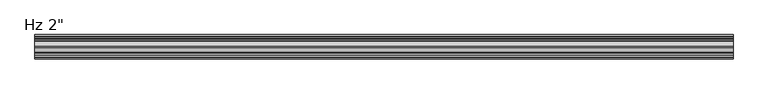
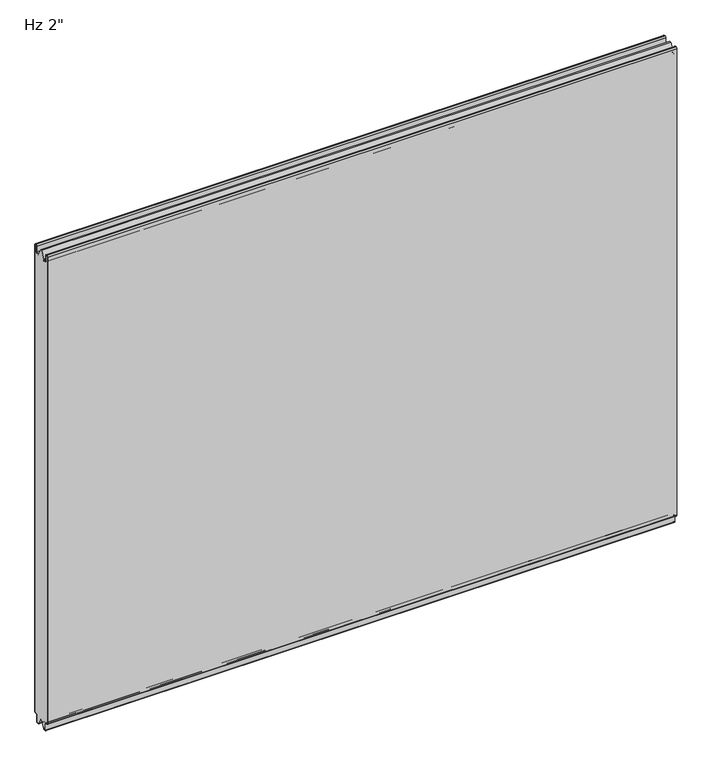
"""IFC4 building model written with IfcOpenShell, lengths in millimetres: plate geometry."""

from ifc_helpers import new_model, si_unit, frame, origin, place, context, project, spatial, polyline, circle_curve, source, transform, mapped, element, save
from ifc_brep_helpers import plane_surface, cylinder_surface, revolved_surface, advanced_brep


def plate_8ef68199(model_context):
    return source(origin(), model_context, "Body", "AdvancedBrep", [
        advanced_brep(
        [(-730.0, -2.9775467, 3.8505994), (-730.0, -5.2690127, 3.8505994), (-730.0, -9.2466047, -0.1269926), (-730.0, -9.2466047, -15.7237817), (-730.0, -9.8343998, -16.3115768), (-730.0, -12.9058755, -16.3115768), (-730.0, -13.4937293, -15.723723), (-730.0, -13.4937293, -13.3687064), (-730.0, -14.4937446, -13.3687064), (-730.0, -14.4937446, -15.6582851), (-730.0, -23.7509179, 0.0), (-730.0, -27.0490865, 0.0), (-730.0, -36.3062598, -15.6582851), (-730.0, -36.3062598, -13.3687064), (-730.0, -37.3062598, -13.3687064), (-730.0, -37.3062598, -15.723742), (-730.0, -37.8941365, -16.3116186), (-730.0, -40.9656854, -16.3116186), (-730.0, -41.5535623, -15.7237417), (-730.0, -41.5535623, -0.1273173), (-730.0, -45.5308295, 3.8499499), (-730.0, -47.8227194, 3.8499499), (-730.0, -49.7999935, 5.8272239), (-730.0, -49.8, 1150.8100652), (-730.0, -47.8227315, 1152.7873337), (-730.0, -46.7806329, 1152.7873337), (-730.0, -44.8033643, 1150.8100652), (-730.0, -44.8033643, 1136.6216802), (-730.0, -42.2154878, 1134.0338036), (-730.0, -37.8950697, 1134.0338036), (-730.0, -37.3060762, 1133.4253365), (-730.0, -37.3060762, 1131.0482432), (-730.0, -36.3066023, 1131.0482432), (-730.0, -36.3066023, 1136.4905123), (-730.0, -27.0490865, 1152.525), (-730.0, -23.7509179, 1152.525), (-730.0, -14.4934021, 1136.4905123), (-730.0, -14.4934021, 1131.0482432), (-730.0, -13.4939418, 1131.0482432), (-730.0, -13.4939418, 1133.4253475), (-730.0, -12.9049279, 1134.0338476), (-730.0, -8.5845971, 1134.0338476), (-730.0, -5.9968035, 1136.6216411), (-730.0, -5.9968035, 1150.8103903), (-730.0, -4.0192093, 1152.7879845), (-730.0, -2.9770147, 1152.7879845), (-730.0, -1.0005251, 1150.811495), (-730.0, -1.0005251, 5.7647234), (730.0, -2.9775467, 3.8505994), (730.0, -1.0005251, 5.7647234), (730.0, -1.0005251, 1150.811495), (730.0, -2.9770147, 1152.7879845), (730.0, -4.0192093, 1152.7879845), (730.0, -5.9968035, 1150.8103903), (730.0, -5.9968035, 1136.6216411), (730.0, -8.5845971, 1134.0338476), (730.0, -12.9049279, 1134.0338476), (730.0, -13.4939418, 1133.4253475), (730.0, -13.4939418, 1131.0482432), (730.0, -14.4934021, 1131.0482432), (730.0, -14.4934021, 1136.4905123), (730.0, -23.7509179, 1152.525), (730.0, -27.0490865, 1152.525), (730.0, -36.3066023, 1136.4905123), (730.0, -36.3066023, 1131.0482432), (730.0, -37.3060762, 1131.0482432), (730.0, -37.3060762, 1133.4253365), (730.0, -37.8950697, 1134.0338036), (730.0, -42.2154878, 1134.0338036), (730.0, -44.8033643, 1136.6216802), (730.0, -44.8033643, 1150.8100652), (730.0, -46.7806329, 1152.7873337), (730.0, -47.8227315, 1152.7873337), (730.0, -49.8, 1150.8100652), (730.0, -49.8, 5.8272239), (730.0, -47.8227194, 3.8499499), (730.0, -45.5308295, 3.8499499), (730.0, -41.5535623, -0.1273173), (730.0, -41.5535623, -15.7237417), (730.0, -40.9656854, -16.3116186), (730.0, -37.8941365, -16.3116186), (730.0, -37.3062598, -15.723742), (730.0, -37.3062598, -13.3687064), (730.0, -36.3062598, -13.3687064), (730.0, -36.3062598, -15.6582851), (730.0, -27.0490865, 0.0), (730.0, -23.7509179, 0.0), (730.0, -14.4937446, -15.6582851), (730.0, -14.4937446, -13.3687064), (730.0, -13.4937293, -13.3687064), (730.0, -13.4937293, -15.723723), (730.0, -12.9058755, -16.3115768), (730.0, -9.8343998, -16.3115768), (730.0, -9.2466047, -15.7237817), (730.0, -9.2466047, -0.1269926), (730.0, -5.2690127, 3.8505994)],
        [
            (0, 1),
            (1, 2, circle_curve(frame((-730.0, -5.2690127, -0.1269926), z_axis=(1.0, 0.0, 0.0), x_axis=(0.0, 1.0, 0.0)), 3.977592)),
            (2, 3),
            (3, 4, circle_curve(frame((-730.0, -9.8343998, -15.7237817), z_axis=(-1.0, 0.0, 0.0), x_axis=(0.0, 1.0, 0.0)), 0.5877951)),
            (4, 5),
            (5, 6, circle_curve(frame((-730.0, -12.9058755, -15.723723), z_axis=(-1.0, 0.0, 0.0), x_axis=(0.0, 1.0, 0.0)), 0.5878538)),
            (6, 7),
            (7, 8),
            (8, 9),
            (9, 10),
            (10, 11),
            (11, 12),
            (12, 13),
            (13, 14),
            (14, 15),
            (15, 16, circle_curve(frame((-730.0, -37.8941365, -15.723742), z_axis=(-1.0, 0.0, 0.0), x_axis=(0.0, 1.0, 0.0)), 0.5878766)),
            (16, 17),
            (17, 18, circle_curve(frame((-730.0, -40.9656854, -15.7237417), z_axis=(-1.0, 0.0, 0.0), x_axis=(0.0, 1.0, 0.0)), 0.5878769)),
            (18, 19),
            (19, 20, circle_curve(frame((-730.0, -45.5308295, -0.1273173), z_axis=(1.0, 0.0, 0.0), x_axis=(0.0, 1.0, 0.0)), 3.9772671)),
            (20, 21),
            (21, 22, circle_curve(frame((-730.0, -47.8227194, 5.8272239), z_axis=(-1.0, 0.0, 0.0), x_axis=(0.0, 1.0, 0.0)), 1.977274)),
            (22, 23),
            (23, 24, circle_curve(frame((-730.0, -47.8227315, 1150.8100652), z_axis=(-1.0, 0.0, 0.0), x_axis=(0.0, 1.0, 0.0)), 1.9772685)),
            (24, 25),
            (25, 26, circle_curve(frame((-730.0, -46.7806329, 1150.8100652), z_axis=(-1.0, 0.0, 0.0), x_axis=(0.0, 1.0, 0.0)), 1.9772685)),
            (26, 27),
            (27, 28, circle_curve(frame((-730.0, -42.2154878, 1136.6216802), z_axis=(1.0, 0.0, 0.0), x_axis=(0.0, 1.0, 0.0)), 2.5878765)),
            (28, 29),
            (29, 30, circle_curve(frame((-730.0, -37.8950697, 1133.4444985), z_axis=(-1.0, 0.0, 0.0), x_axis=(0.0, 1.0, 0.0)), 0.5893051)),
            (30, 31),
            (31, 32),
            (32, 33),
            (33, 34),
            (34, 35),
            (35, 36),
            (36, 37),
            (37, 38),
            (38, 39),
            (39, 40, circle_curve(frame((-730.0, -12.9049279, 1133.4445216), z_axis=(-1.0, 0.0, 0.0), x_axis=(0.0, 1.0, 0.0)), 0.589326)),
            (40, 41),
            (41, 42, circle_curve(frame((-730.0, -8.5845971, 1136.6216411), z_axis=(1.0, 0.0, 0.0), x_axis=(0.0, 1.0, 0.0)), 2.5877935)),
            (42, 43),
            (43, 44, circle_curve(frame((-730.0, -4.0192093, 1150.8103903), z_axis=(-1.0, 0.0, 0.0), x_axis=(0.0, 1.0, 0.0)), 1.9775943)),
            (44, 45),
            (45, 46, circle_curve(frame((-730.0, -2.9770147, 1150.811495), z_axis=(-1.0, 0.0, 0.0), x_axis=(0.0, 1.0, 0.0)), 1.9764896)),
            (46, 47),
            (47, 0, circle_curve(frame((-730.0, -2.9775467, 5.8286544), z_axis=(-1.0, 0.0, 0.0), x_axis=(0.0, 1.0, 0.0)), 1.978055)),
            (48, 49, circle_curve(frame((730.0, -2.9775467, 5.8286544), z_axis=(1.0, 0.0, 0.0), x_axis=(0.0, 1.0, 0.0)), 1.978055)),
            (49, 50),
            (50, 51, circle_curve(frame((730.0, -2.9770147, 1150.811495), z_axis=(1.0, 0.0, 0.0), x_axis=(0.0, 1.0, 0.0)), 1.9764896)),
            (51, 52),
            (52, 53, circle_curve(frame((730.0, -4.0192093, 1150.8103903), z_axis=(1.0, 0.0, 0.0), x_axis=(0.0, 1.0, 0.0)), 1.9775943)),
            (53, 54),
            (54, 55, circle_curve(frame((730.0, -8.5845971, 1136.6216411), z_axis=(-1.0, 0.0, 0.0), x_axis=(0.0, 1.0, 0.0)), 2.5877935)),
            (55, 56),
            (56, 57, circle_curve(frame((730.0, -12.9049279, 1133.4445216), z_axis=(1.0, 0.0, 0.0), x_axis=(0.0, 1.0, 0.0)), 0.589326)),
            (57, 58),
            (58, 59),
            (59, 60),
            (60, 61),
            (61, 62),
            (62, 63),
            (63, 64),
            (64, 65),
            (65, 66),
            (66, 67, circle_curve(frame((730.0, -37.8950697, 1133.4444985), z_axis=(1.0, 0.0, 0.0), x_axis=(0.0, 1.0, 0.0)), 0.5893051)),
            (67, 68),
            (68, 69, circle_curve(frame((730.0, -42.2154878, 1136.6216802), z_axis=(-1.0, 0.0, 0.0), x_axis=(0.0, 1.0, 0.0)), 2.5878765)),
            (69, 70),
            (70, 71, circle_curve(frame((730.0, -46.7806329, 1150.8100652), z_axis=(1.0, 0.0, 0.0), x_axis=(0.0, 1.0, 0.0)), 1.9772685)),
            (71, 72),
            (72, 73, circle_curve(frame((730.0, -47.8227315, 1150.8100652), z_axis=(1.0, 0.0, 0.0), x_axis=(0.0, 1.0, 0.0)), 1.9772685)),
            (73, 74),
            (74, 75, circle_curve(frame((730.0, -47.8227194, 5.8272239), z_axis=(1.0, 0.0, 0.0), x_axis=(0.0, 1.0, 0.0)), 1.977274)),
            (75, 76),
            (76, 77, circle_curve(frame((730.0, -45.5308295, -0.1273173), z_axis=(-1.0, 0.0, 0.0), x_axis=(0.0, 1.0, 0.0)), 3.9772671)),
            (77, 78),
            (78, 79, circle_curve(frame((730.0, -40.9656854, -15.7237417), z_axis=(1.0, 0.0, 0.0), x_axis=(0.0, 1.0, 0.0)), 0.5878769)),
            (79, 80),
            (80, 81, circle_curve(frame((730.0, -37.8941365, -15.723742), z_axis=(1.0, 0.0, 0.0), x_axis=(0.0, 1.0, 0.0)), 0.5878766)),
            (81, 82),
            (82, 83),
            (83, 84),
            (84, 85),
            (85, 86),
            (86, 87),
            (87, 88),
            (88, 89),
            (89, 90),
            (90, 91, circle_curve(frame((730.0, -12.9058755, -15.723723), z_axis=(1.0, 0.0, 0.0), x_axis=(0.0, 1.0, 0.0)), 0.5878538)),
            (91, 92),
            (92, 93, circle_curve(frame((730.0, -9.8343998, -15.7237817), z_axis=(1.0, 0.0, 0.0), x_axis=(0.0, 1.0, 0.0)), 0.5877951)),
            (93, 94),
            (94, 95, circle_curve(frame((730.0, -5.2690127, -0.1269926), z_axis=(-1.0, 0.0, 0.0), x_axis=(0.0, 1.0, 0.0)), 3.977592)),
            (95, 48),
            (47, 49),
            (48, 0),
            (46, 50),
            (45, 51),
            (44, 52),
            (43, 53),
            (42, 54),
            (41, 55),
            (40, 56),
            (39, 57),
            (38, 58),
            (37, 59),
            (36, 60),
            (35, 61),
            (34, 62),
            (33, 63),
            (32, 64),
            (31, 65),
            (30, 66),
            (29, 67),
            (28, 68),
            (27, 69),
            (26, 70),
            (25, 71),
            (24, 72),
            (23, 73),
            (22, 74),
            (21, 75),
            (20, 76),
            (19, 77),
            (18, 78),
            (17, 79),
            (16, 80),
            (15, 81),
            (14, 82),
            (13, 83),
            (12, 84),
            (11, 85),
            (10, 86),
            (9, 87),
            (8, 88),
            (7, 89),
            (6, 90),
            (5, 91),
            (4, 92),
            (3, 93),
            (2, 94),
            (1, 95),
        ],
        [
            plane_surface(frame((-730.0, -49.8, 576.2625), z_axis=(-1.0, 0.0, 0.0), x_axis=(0.0, -1.0, 0.0))),
            plane_surface(frame((730.0, -49.8, 576.2625), z_axis=(1.0, 0.0, 0.0), x_axis=(0.0, -1.0, 0.0))),
            cylinder_surface(frame((-730.0, -2.9775467, 5.8286544), z_axis=(-1.0, 0.0, 0.0), x_axis=(0.0, 1.0, 0.0)), 1.978055),
            plane_surface(frame((-730.0, -1.0005251, 5.7647234), z_axis=(0.0, 1.0, 0.0), x_axis=(1.0, 0.0, 0.0))),
            cylinder_surface(frame((-730.0, -2.9770147, 1150.811495), z_axis=(-1.0, 0.0, 0.0), x_axis=(0.0, 1.0, 0.0)), 1.9764896),
            plane_surface(frame((-730.0, -2.9770147, 1152.7879845), z_axis=(0.0, 0.0, 1.0), x_axis=(1.0, 0.0, 0.0))),
            cylinder_surface(frame((-730.0, -4.0192093, 1150.8103903), z_axis=(-1.0, 0.0, 0.0), x_axis=(0.0, 1.0, 0.0)), 1.9775943),
            plane_surface(frame((-730.0, -5.9968035, 1150.8103903), z_axis=(0.0, -1.0, 0.0), x_axis=(1.0, 0.0, 0.0))),
            revolved_surface(polyline([(730.0, -5.9968036, 1136.6216411), (-730.0, -5.9968036, 1136.6216411)]), (-730.0, -8.5845971, 1136.6216411), (1.0, 0.0, 0.0)),
            plane_surface(frame((-730.0, -8.5845971, 1134.0338476), z_axis=(0.0, 0.0, 1.0), x_axis=(1.0, 0.0, 0.0))),
            cylinder_surface(frame((-730.0, -12.9049279, 1133.4445216), z_axis=(-1.0, 0.0, 0.0), x_axis=(0.0, 1.0, 0.0)), 0.589326),
            plane_surface(frame((-730.0, -13.4939418, 1133.4253475), z_axis=(0.0, -1.0, 0.0), x_axis=(1.0, 0.0, 0.0))),
            plane_surface(frame((-730.0, -13.4939418, 1131.0482432), z_axis=(0.0, 0.0, 1.0), x_axis=(1.0, 0.0, 0.0))),
            plane_surface(frame((-730.0, -14.4934021, 1131.0482432), z_axis=(0.0, 1.0, 0.0), x_axis=(1.0, 0.0, 0.0))),
            plane_surface(frame((-730.0, -14.4934021, 1136.4905123), z_axis=(0.0, 0.8660254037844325, 0.5000000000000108), x_axis=(1.0, 0.0, 0.0))),
            plane_surface(frame((-730.0, -23.7509179, 1152.525), z_axis=(0.0, 0.0, 1.0), x_axis=(1.0, 0.0, 0.0))),
            plane_surface(frame((-730.0, -27.0490865, 1152.525), z_axis=(0.0, -0.8660254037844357, 0.5000000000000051), x_axis=(1.0, 0.0, 0.0))),
            plane_surface(frame((-730.0, -36.3066023, 1136.4905123), z_axis=(0.0, -1.0, 0.0), x_axis=(1.0, 0.0, 0.0))),
            plane_surface(frame((-730.0, -36.3066023, 1131.0482432), z_axis=(0.0, 0.0, 1.0), x_axis=(1.0, 0.0, 0.0))),
            plane_surface(frame((-730.0, -37.3060762, 1131.0482432), z_axis=(0.0, 1.0, 0.0), x_axis=(1.0, 0.0, 0.0))),
            cylinder_surface(frame((-730.0, -37.8950697, 1133.4444985), z_axis=(-1.0, 0.0, 0.0), x_axis=(0.0, 1.0, 0.0)), 0.5893051),
            plane_surface(frame((-730.0, -37.8950697, 1134.0338036), z_axis=(0.0, 0.0, 1.0), x_axis=(1.0, 0.0, 0.0))),
            revolved_surface(polyline([(730.0, -39.6276113, 1136.6216802), (-730.0, -39.6276113, 1136.6216802)]), (-730.0, -42.2154878, 1136.6216802), (1.0, 0.0, 0.0)),
            plane_surface(frame((-730.0, -44.8033643, 1136.6216802), z_axis=(0.0, 1.0, 0.0), x_axis=(1.0, 0.0, 0.0))),
            cylinder_surface(frame((-730.0, -46.7806329, 1150.8100652), z_axis=(-1.0, 0.0, 0.0), x_axis=(0.0, 1.0, 0.0)), 1.9772685),
            plane_surface(frame((-730.0, -46.7806329, 1152.7873337), z_axis=(0.0, 0.0, 1.0), x_axis=(1.0, 0.0, 0.0))),
            cylinder_surface(frame((-730.0, -47.8227315, 1150.8100652), z_axis=(-1.0, 0.0, 0.0), x_axis=(0.0, 1.0, 0.0)), 1.9772685),
            plane_surface(frame((-730.0, -49.8, 1150.8100652), z_axis=(0.0, -1.0, 0.0), x_axis=(1.0, 0.0, 0.0))),
            cylinder_surface(frame((-730.0, -47.8227194, 5.8272239), z_axis=(-1.0, 0.0, 0.0), x_axis=(0.0, 1.0, 0.0)), 1.977274),
            plane_surface(frame((-730.0, -47.8227194, 3.8499499), z_axis=(0.0, 0.0, -1.0), x_axis=(1.0, 0.0, 0.0))),
            revolved_surface(polyline([(730.0, -41.553562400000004, -0.1273173), (-730.0, -41.553562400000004, -0.1273173)]), (-730.0, -45.5308295, -0.1273173), (1.0, 0.0, 0.0)),
            plane_surface(frame((-730.0, -41.5535623, -0.1273173), z_axis=(0.0, -1.0, 0.0), x_axis=(1.0, 0.0, 0.0))),
            cylinder_surface(frame((-730.0, -40.9656854, -15.7237417), z_axis=(-1.0, 0.0, 0.0), x_axis=(0.0, 1.0, 0.0)), 0.5878769),
            plane_surface(frame((-730.0, -40.9656854, -16.3116186), z_axis=(0.0, 0.0, -1.0), x_axis=(1.0, 0.0, 0.0))),
            cylinder_surface(frame((-730.0, -37.8941365, -15.723742), z_axis=(-1.0, 0.0, 0.0), x_axis=(0.0, 1.0, 0.0)), 0.5878766),
            plane_surface(frame((-730.0, -37.3062598, -15.723742), z_axis=(0.0, 1.0, 0.0), x_axis=(1.0, 0.0, 0.0))),
            plane_surface(frame((-730.0, -37.3062598, -13.3687064), z_axis=(0.0, 0.0, -1.0), x_axis=(1.0, 0.0, 0.0))),
            plane_surface(frame((-730.0, -36.3062598, -13.3687064), z_axis=(0.0, -1.0, 0.0), x_axis=(1.0, 0.0, 0.0))),
            plane_surface(frame((-730.0, -36.3062598, -15.6582851), z_axis=(0.0, 0.8608169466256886, -0.5089147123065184), x_axis=(1.0, 0.0, 0.0))),
            plane_surface(frame((-730.0, -27.0490865, 0.0), z_axis=(0.0, 0.0, -1.0), x_axis=(1.0, 0.0, 0.0))),
            plane_surface(frame((-730.0, -23.7509179, 0.0), z_axis=(0.0, -0.8608169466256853, -0.5089147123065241), x_axis=(1.0, 0.0, 0.0))),
            plane_surface(frame((-730.0, -14.4937446, -15.6582851), z_axis=(0.0, 1.0, 0.0), x_axis=(1.0, 0.0, 0.0))),
            plane_surface(frame((-730.0, -14.4937446, -13.3687064), z_axis=(0.0, 0.0, -1.0), x_axis=(1.0, 0.0, 0.0))),
            plane_surface(frame((-730.0, -13.4937293, -13.3687064), z_axis=(0.0, -1.0, 0.0), x_axis=(1.0, 0.0, 0.0))),
            cylinder_surface(frame((-730.0, -12.9058755, -15.723723), z_axis=(-1.0, 0.0, 0.0), x_axis=(0.0, 1.0, 0.0)), 0.5878538),
            plane_surface(frame((-730.0, -12.9058755, -16.3115768), z_axis=(0.0, 0.0, -1.0), x_axis=(1.0, 0.0, 0.0))),
            cylinder_surface(frame((-730.0, -9.8343998, -15.7237817), z_axis=(-1.0, 0.0, 0.0), x_axis=(0.0, 1.0, 0.0)), 0.5877951),
            plane_surface(frame((-730.0, -9.2466047, -15.7237817), z_axis=(0.0, 1.0, 0.0), x_axis=(1.0, 0.0, 0.0))),
            revolved_surface(polyline([(730.0, -1.2914207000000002, -0.1269926), (-730.0, -1.2914207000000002, -0.1269926)]), (-730.0, -5.2690127, -0.1269926), (1.0, 0.0, 0.0)),
            plane_surface(frame((-730.0, -5.2690127, 3.8505994), z_axis=(0.0, 0.0, -1.0), x_axis=(1.0, 0.0, 0.0))),
        ],
        [
            (0, [[1, 2, 3, 4, 5, 6, 7, 8, 9, 10, 11, 12, 13, 14, 15, 16, 17, 18, 19, 20, 21, 22, 23, 24, 25, 26, 27, 28, 29, 30, 31, 32, 33, 34, 35, 36, 37, 38, 39, 40, 41, 42, 43, 44, 45, 46, 47, 48]]),
            (1, [[49, 50, 51, 52, 53, 54, 55, 56, 57, 58, 59, 60, 61, 62, 63, 64, 65, 66, 67, 68, 69, 70, 71, 72, 73, 74, 75, 76, 77, 78, 79, 80, 81, 82, 83, 84, 85, 86, 87, 88, 89, 90, 91, 92, 93, 94, 95, 96]]),
            (2, [[97, -49, 98, -48]]),
            (3, [[99, -50, -97, -47]]),
            (4, [[100, -51, -99, -46]]),
            (5, [[101, -52, -100, -45]]),
            (6, [[102, -53, -101, -44]]),
            (7, [[103, -54, -102, -43]]),
            (8, [[104, -55, -103, -42]]),
            (9, [[105, -56, -104, -41]]),
            (10, [[106, -57, -105, -40]]),
            (11, [[107, -58, -106, -39]]),
            (12, [[108, -59, -107, -38]]),
            (13, [[109, -60, -108, -37]]),
            (14, [[110, -61, -109, -36]]),
            (15, [[111, -62, -110, -35]]),
            (16, [[112, -63, -111, -34]]),
            (17, [[113, -64, -112, -33]]),
            (18, [[114, -65, -113, -32]]),
            (19, [[115, -66, -114, -31]]),
            (20, [[116, -67, -115, -30]]),
            (21, [[117, -68, -116, -29]]),
            (22, [[118, -69, -117, -28]]),
            (23, [[119, -70, -118, -27]]),
            (24, [[120, -71, -119, -26]]),
            (25, [[121, -72, -120, -25]]),
            (26, [[122, -73, -121, -24]]),
            (27, [[123, -74, -122, -23]]),
            (28, [[124, -75, -123, -22]]),
            (29, [[125, -76, -124, -21]]),
            (30, [[126, -77, -125, -20]]),
            (31, [[127, -78, -126, -19]]),
            (32, [[128, -79, -127, -18]]),
            (33, [[129, -80, -128, -17]]),
            (34, [[130, -81, -129, -16]]),
            (35, [[131, -82, -130, -15]]),
            (36, [[132, -83, -131, -14]]),
            (37, [[133, -84, -132, -13]]),
            (38, [[134, -85, -133, -12]]),
            (39, [[135, -86, -134, -11]]),
            (40, [[136, -87, -135, -10]]),
            (41, [[137, -88, -136, -9]]),
            (42, [[138, -89, -137, -8]]),
            (43, [[139, -90, -138, -7]]),
            (44, [[140, -91, -139, -6]]),
            (45, [[141, -92, -140, -5]]),
            (46, [[142, -93, -141, -4]]),
            (47, [[143, -94, -142, -3]]),
            (48, [[144, -95, -143, -2]]),
            (49, [[-98, -96, -144, -1]]),
        ],
    ),
        advanced_brep(
        [(-730.0, -2.9776189, 3.8501063), (-730.0, -1.0007088, 5.8270163), (-730.0, -1.0007088, 1150.812837), (-730.0, -2.97659, 1152.7887182), (-730.0, -4.019022, 1152.7887182), (-730.0, -5.9969834, 1150.8107568), (-730.0, -5.9969834, 1136.6215971), (-730.0, -8.5846834, 1134.0338971), (-730.0, -12.9049158, 1134.0338971), (-730.0, -13.4939528, 1133.4253599), (-730.0, -13.4939528, 1131.0482432), (-730.0, -14.4933977, 1131.0482432), (-730.0, -14.4933977, 1133.3929042), (-730.0, -12.9049303, 1135.0338036), (-730.0, -8.5845122, 1135.0338036), (-730.0, -6.9966356, 1136.6216801), (-730.0, -6.9966356, 1150.8100652), (-730.0, -4.0193671, 1153.7873337), (-730.0, -2.9772685, 1153.7873337), (-730.0, 0.0, 1150.8100652), (-730.0, 0.0, 5.8272211), (-730.0, -2.977286, 2.8499526), (-730.0, -5.2691698, 2.8499526), (-730.0, -8.2464384, -0.1273159), (-730.0, -8.2464384, -15.7237419), (-730.0, -9.8343149, -17.3116185), (-730.0, -12.9058636, -17.3116185), (-730.0, -14.4937401, -15.7237419), (-730.0, -14.4937401, -13.3687064), (-730.0, -13.4937365, -13.3687064), (-730.0, -13.4937365, -15.7237374), (-730.0, -12.9058654, -16.3116086), (-730.0, -9.834334, -16.3116086), (-730.0, -9.2464768, -15.7237514), (-730.0, -9.2464768, -0.1272391), (-730.0, -5.2691315, 3.8501063), (730.0, -2.9776189, 3.8501063), (730.0, -5.2691315, 3.8501063), (730.0, -9.2464768, -0.1272391), (730.0, -9.2464768, -15.7237514), (730.0, -9.834334, -16.3116086), (730.0, -12.9058654, -16.3116086), (730.0, -13.4937365, -15.7237374), (730.0, -13.4937365, -13.3687064), (730.0, -14.4937401, -13.3687064), (730.0, -14.4937401, -15.7237419), (730.0, -12.9058636, -17.3116185), (730.0, -9.8343149, -17.3116185), (730.0, -8.2464384, -15.7237419), (730.0, -8.2464384, -0.1273159), (730.0, -5.2691698, 2.8499526), (730.0, -2.977286, 2.8499526), (730.0, -1.75e-05, 5.8272211), (730.0, 0.0, 1150.8100652), (730.0, -2.9772685, 1153.7873337), (730.0, -4.0193671, 1153.7873337), (730.0, -6.9966356, 1150.8100652), (730.0, -6.9966356, 1136.6216801), (730.0, -8.5845122, 1135.0338036), (730.0, -12.9049303, 1135.0338036), (730.0, -14.4933977, 1133.3929042), (730.0, -14.4933977, 1131.0482432), (730.0, -13.4939528, 1131.0482432), (730.0, -13.4939528, 1133.4253599), (730.0, -12.9049158, 1134.0338971), (730.0, -8.5846834, 1134.0338971), (730.0, -5.9969834, 1136.6215971), (730.0, -5.9969834, 1150.8107568), (730.0, -4.019022, 1152.7887182), (730.0, -2.97659, 1152.7887182), (730.0, -1.0007088, 1150.812837), (730.0, -1.0007088, 5.8270163)],
        [
            (0, 1, circle_curve(frame((-730.0, -2.9776189, 5.8270163), z_axis=(1.0, 0.0, 0.0), x_axis=(0.0, 1.0, 0.0)), 1.9769101)),
            (1, 2),
            (2, 3, circle_curve(frame((-730.0, -2.97659, 1150.812837), z_axis=(1.0, 0.0, 0.0), x_axis=(0.0, 1.0, 0.0)), 1.9758812)),
            (3, 4),
            (4, 5, circle_curve(frame((-730.0, -4.019022, 1150.8107568), z_axis=(1.0, 0.0, 0.0), x_axis=(0.0, 1.0, 0.0)), 1.9779614)),
            (5, 6),
            (6, 7, circle_curve(frame((-730.0, -8.5846834, 1136.6215971), z_axis=(-1.0, 0.0, 0.0), x_axis=(0.0, 1.0, 0.0)), 2.5877)),
            (7, 8),
            (8, 9, circle_curve(frame((-730.0, -12.9049158, 1133.4445477), z_axis=(1.0, 0.0, 0.0), x_axis=(0.0, 1.0, 0.0)), 0.5893495)),
            (9, 10),
            (10, 11),
            (11, 12),
            (12, 13, circle_curve(frame((-730.0, -12.9049303, 1133.4444985), z_axis=(-1.0, 0.0, 0.0), x_axis=(0.0, 1.0, 0.0)), 1.5893051)),
            (13, 14),
            (14, 15, circle_curve(frame((-730.0, -8.5845122, 1136.6216801), z_axis=(1.0, 0.0, 0.0), x_axis=(0.0, 1.0, 0.0)), 1.5878765)),
            (15, 16),
            (16, 17, circle_curve(frame((-730.0, -4.0193671, 1150.8100652), z_axis=(-1.0, 0.0, 0.0), x_axis=(0.0, 1.0, 0.0)), 2.9772685)),
            (17, 18),
            (18, 19, circle_curve(frame((-730.0, -2.9772685, 1150.8100652), z_axis=(-1.0, 0.0, 0.0), x_axis=(0.0, 1.0, 0.0)), 2.9772685)),
            (19, 20),
            (20, 21, circle_curve(frame((-730.0, -2.977286, 5.8272211), z_axis=(-1.0, 0.0, 0.0), x_axis=(0.0, 1.0, 0.0)), 2.9772685)),
            (21, 22),
            (22, 23, circle_curve(frame((-730.0, -5.2691698, -0.1273159), z_axis=(1.0, 0.0, 0.0), x_axis=(0.0, 1.0, 0.0)), 2.9772685)),
            (23, 24),
            (24, 25, circle_curve(frame((-730.0, -9.8343149, -15.7237419), z_axis=(-1.0, 0.0, 0.0), x_axis=(0.0, 1.0, 0.0)), 1.5878765)),
            (25, 26),
            (26, 27, circle_curve(frame((-730.0, -12.9058636, -15.7237419), z_axis=(-1.0, 0.0, 0.0), x_axis=(0.0, 1.0, 0.0)), 1.5878765)),
            (27, 28),
            (28, 29),
            (29, 30),
            (30, 31, circle_curve(frame((-730.0, -12.9058654, -15.7237374), z_axis=(1.0, 0.0, 0.0), x_axis=(0.0, 1.0, 0.0)), 0.5878711)),
            (31, 32),
            (32, 33, circle_curve(frame((-730.0, -9.834334, -15.7237514), z_axis=(1.0, 0.0, 0.0), x_axis=(0.0, 1.0, 0.0)), 0.5878572)),
            (33, 34),
            (34, 35, circle_curve(frame((-730.0, -5.2691315, -0.1272391), z_axis=(-1.0, 0.0, 0.0), x_axis=(0.0, 1.0, 0.0)), 3.9773454)),
            (35, 0),
            (36, 37),
            (37, 38, circle_curve(frame((730.0, -5.2691315, -0.1272391), z_axis=(1.0, 0.0, 0.0), x_axis=(0.0, 1.0, 0.0)), 3.9773454)),
            (38, 39),
            (39, 40, circle_curve(frame((730.0, -9.834334, -15.7237514), z_axis=(-1.0, 0.0, 0.0), x_axis=(0.0, 1.0, 0.0)), 0.5878572)),
            (40, 41),
            (41, 42, circle_curve(frame((730.0, -12.9058654, -15.7237374), z_axis=(-1.0, 0.0, 0.0), x_axis=(0.0, 1.0, 0.0)), 0.5878711)),
            (42, 43),
            (43, 44),
            (44, 45),
            (45, 46, circle_curve(frame((730.0, -12.9058636, -15.7237419), z_axis=(1.0, 0.0, 0.0), x_axis=(0.0, 1.0, 0.0)), 1.5878765)),
            (46, 47),
            (47, 48, circle_curve(frame((730.0, -9.8343149, -15.7237419), z_axis=(1.0, 0.0, 0.0), x_axis=(0.0, 1.0, 0.0)), 1.5878765)),
            (48, 49),
            (49, 50, circle_curve(frame((730.0, -5.2691698, -0.1273159), z_axis=(-1.0, 0.0, 0.0), x_axis=(0.0, 1.0, 0.0)), 2.9772685)),
            (50, 51),
            (51, 52, circle_curve(frame((730.0, -2.977286, 5.8272211), z_axis=(1.0, 0.0, 0.0), x_axis=(0.0, 1.0, 0.0)), 2.9772685)),
            (52, 53),
            (53, 54, circle_curve(frame((730.0, -2.9772685, 1150.8100652), z_axis=(1.0, 0.0, 0.0), x_axis=(0.0, 1.0, 0.0)), 2.9772685)),
            (54, 55),
            (55, 56, circle_curve(frame((730.0, -4.0193671, 1150.8100652), z_axis=(1.0, 0.0, 0.0), x_axis=(0.0, 1.0, 0.0)), 2.9772685)),
            (56, 57),
            (57, 58, circle_curve(frame((730.0, -8.5845122, 1136.6216801), z_axis=(-1.0, 0.0, 0.0), x_axis=(0.0, 1.0, 0.0)), 1.5878765)),
            (58, 59),
            (59, 60, circle_curve(frame((730.0, -12.9049303, 1133.4444985), z_axis=(1.0, 0.0, 0.0), x_axis=(0.0, 1.0, 0.0)), 1.5893051)),
            (60, 61),
            (61, 62),
            (62, 63),
            (63, 64, circle_curve(frame((730.0, -12.9049158, 1133.4445477), z_axis=(-1.0, 0.0, 0.0), x_axis=(0.0, 1.0, 0.0)), 0.5893495)),
            (64, 65),
            (65, 66, circle_curve(frame((730.0, -8.5846834, 1136.6215971), z_axis=(1.0, 0.0, 0.0), x_axis=(0.0, 1.0, 0.0)), 2.5877)),
            (66, 67),
            (67, 68, circle_curve(frame((730.0, -4.019022, 1150.8107568), z_axis=(-1.0, 0.0, 0.0), x_axis=(0.0, 1.0, 0.0)), 1.9779614)),
            (68, 69),
            (69, 70, circle_curve(frame((730.0, -2.97659, 1150.812837), z_axis=(-1.0, 0.0, 0.0), x_axis=(0.0, 1.0, 0.0)), 1.9758812)),
            (70, 71),
            (71, 36, circle_curve(frame((730.0, -2.9776189, 5.8270163), z_axis=(-1.0, 0.0, 0.0), x_axis=(0.0, 1.0, 0.0)), 1.9769101)),
            (35, 37),
            (36, 0),
            (34, 38),
            (33, 39),
            (32, 40),
            (31, 41),
            (30, 42),
            (29, 43),
            (28, 44),
            (27, 45),
            (26, 46),
            (25, 47),
            (24, 48),
            (23, 49),
            (22, 50),
            (21, 51),
            (20, 52),
            (19, 53),
            (18, 54),
            (17, 55),
            (16, 56),
            (15, 57),
            (14, 58),
            (13, 59),
            (12, 60),
            (11, 61),
            (10, 62),
            (9, 63),
            (8, 64),
            (7, 65),
            (6, 66),
            (5, 67),
            (4, 68),
            (3, 69),
            (2, 70),
            (1, 71),
        ],
        [
            plane_surface(frame((-730.0, 0.0, 576.2625), z_axis=(-1.0, 0.0, 0.0), x_axis=(0.0, 1.0, 0.0))),
            plane_surface(frame((730.0, 0.0, 576.2625), z_axis=(1.0, 0.0, 0.0), x_axis=(0.0, 1.0, 0.0))),
            plane_surface(frame((-730.0, -2.9776189, 3.8501063), z_axis=(0.0, 0.0, 1.0), x_axis=(1.0, 0.0, 0.0))),
            cylinder_surface(frame((-730.0, -5.2691315, -0.1272391), z_axis=(-1.0, 0.0, 0.0), x_axis=(0.0, 1.0, 0.0)), 3.9773454),
            plane_surface(frame((-730.0, -9.2464768, -0.1272391), z_axis=(0.0, -1.0, 0.0), x_axis=(1.0, 0.0, 0.0))),
            revolved_surface(polyline([(730.0, -9.2464768, -15.7237514), (-730.0, -9.2464768, -15.7237514)]), (-730.0, -9.834334, -15.7237514), (1.0, 0.0, 0.0)),
            plane_surface(frame((-730.0, -9.834334, -16.3116086), z_axis=(0.0, 0.0, 1.0), x_axis=(1.0, 0.0, 0.0))),
            revolved_surface(polyline([(730.0, -12.3179943, -15.7237374), (-730.0, -12.3179943, -15.7237374)]), (-730.0, -12.9058654, -15.7237374), (1.0, 0.0, 0.0)),
            plane_surface(frame((-730.0, -13.4937365, -15.7237374), z_axis=(0.0, 1.0, 0.0), x_axis=(1.0, 0.0, 0.0))),
            plane_surface(frame((-730.0, -13.4937365, -13.3687064), z_axis=(0.0, 0.0, 1.0), x_axis=(1.0, 0.0, 0.0))),
            plane_surface(frame((-730.0, -14.4937401, -13.3687064), z_axis=(0.0, -1.0, 0.0), x_axis=(1.0, 0.0, 0.0))),
            cylinder_surface(frame((-730.0, -12.9058636, -15.7237419), z_axis=(-1.0, 0.0, 0.0), x_axis=(0.0, 1.0, 0.0)), 1.5878765),
            plane_surface(frame((-730.0, -12.9058636, -17.3116185), z_axis=(0.0, 0.0, -1.0), x_axis=(1.0, 0.0, 0.0))),
            cylinder_surface(frame((-730.0, -9.8343149, -15.7237419), z_axis=(-1.0, 0.0, 0.0), x_axis=(0.0, 1.0, 0.0)), 1.5878765),
            plane_surface(frame((-730.0, -8.2464384, -15.7237419), z_axis=(0.0, 1.0, 0.0), x_axis=(1.0, 0.0, 0.0))),
            revolved_surface(polyline([(730.0, -2.2919013, -0.1273159), (-730.0, -2.2919013, -0.1273159)]), (-730.0, -5.2691698, -0.1273159), (1.0, 0.0, 0.0)),
            plane_surface(frame((-730.0, -5.2691698, 2.8499526), z_axis=(0.0, 0.0, -1.0), x_axis=(1.0, 0.0, 0.0))),
            cylinder_surface(frame((-730.0, -2.977286, 5.8272211), z_axis=(-1.0, 0.0, 0.0), x_axis=(0.0, 1.0, 0.0)), 2.9772685),
            plane_surface(frame((-730.0, 0.0, 5.8272211), z_axis=(0.0, 1.0, 0.0), x_axis=(1.0, 0.0, 0.0))),
            cylinder_surface(frame((-730.0, -2.9772685, 1150.8100652), z_axis=(-1.0, 0.0, 0.0), x_axis=(0.0, 1.0, 0.0)), 2.9772685),
            plane_surface(frame((-730.0, -2.9772685, 1153.7873337), z_axis=(0.0, 0.0, 1.0), x_axis=(1.0, 0.0, 0.0))),
            cylinder_surface(frame((-730.0, -4.0193671, 1150.8100652), z_axis=(-1.0, 0.0, 0.0), x_axis=(0.0, 1.0, 0.0)), 2.9772685),
            plane_surface(frame((-730.0, -6.9966356, 1150.8100652), z_axis=(0.0, -1.0, 0.0), x_axis=(1.0, 0.0, 0.0))),
            revolved_surface(polyline([(730.0, -6.996635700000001, 1136.6216801), (-730.0, -6.996635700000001, 1136.6216801)]), (-730.0, -8.5845122, 1136.6216801), (1.0, 0.0, 0.0)),
            plane_surface(frame((-730.0, -8.5845122, 1135.0338036), z_axis=(0.0, 0.0, 1.0), x_axis=(1.0, 0.0, 0.0))),
            cylinder_surface(frame((-730.0, -12.9049303, 1133.4444985), z_axis=(-1.0, 0.0, 0.0), x_axis=(0.0, 1.0, 0.0)), 1.5893051),
            plane_surface(frame((-730.0, -14.4933977, 1133.3929042), z_axis=(0.0, -1.0, 0.0), x_axis=(1.0, 0.0, 0.0))),
            plane_surface(frame((-730.0, -14.4933977, 1131.0482432), z_axis=(0.0, 0.0, -1.0), x_axis=(1.0, 0.0, 0.0))),
            plane_surface(frame((-730.0, -13.4939528, 1131.0482432), z_axis=(0.0, 1.0, 0.0), x_axis=(1.0, 0.0, 0.0))),
            revolved_surface(polyline([(730.0, -12.3155663, 1133.4445477), (-730.0, -12.3155663, 1133.4445477)]), (-730.0, -12.9049158, 1133.4445477), (1.0, 0.0, 0.0)),
            plane_surface(frame((-730.0, -12.9049158, 1134.0338971), z_axis=(0.0, 0.0, -1.0), x_axis=(1.0, 0.0, 0.0))),
            cylinder_surface(frame((-730.0, -8.5846834, 1136.6215971), z_axis=(-1.0, 0.0, 0.0), x_axis=(0.0, 1.0, 0.0)), 2.5877),
            plane_surface(frame((-730.0, -5.9969834, 1136.6215971), z_axis=(0.0, 1.0, 0.0), x_axis=(1.0, 0.0, 0.0))),
            revolved_surface(polyline([(730.0, -2.0410606, 1150.8107568), (-730.0, -2.0410606, 1150.8107568)]), (-730.0, -4.019022, 1150.8107568), (1.0, 0.0, 0.0)),
            plane_surface(frame((-730.0, -4.019022, 1152.7887182), z_axis=(0.0, 0.0, -1.0), x_axis=(1.0, 0.0, 0.0))),
            revolved_surface(polyline([(730.0, -1.0007088, 1150.812837), (-730.0, -1.0007088, 1150.812837)]), (-730.0, -2.97659, 1150.812837), (1.0, 0.0, 0.0)),
            plane_surface(frame((-730.0, -1.0007088, 1150.812837), z_axis=(0.0, -1.0, 0.0), x_axis=(1.0, 0.0, 0.0))),
            revolved_surface(polyline([(730.0, -1.0007088, 5.8270163), (-730.0, -1.0007088, 5.8270163)]), (-730.0, -2.9776189, 5.8270163), (1.0, 0.0, 0.0)),
        ],
        [
            (0, [[1, 2, 3, 4, 5, 6, 7, 8, 9, 10, 11, 12, 13, 14, 15, 16, 17, 18, 19, 20, 21, 22, 23, 24, 25, 26, 27, 28, 29, 30, 31, 32, 33, 34, 35, 36]]),
            (1, [[37, 38, 39, 40, 41, 42, 43, 44, 45, 46, 47, 48, 49, 50, 51, 52, 53, 54, 55, 56, 57, 58, 59, 60, 61, 62, 63, 64, 65, 66, 67, 68, 69, 70, 71, 72]]),
            (2, [[73, -37, 74, -36]]),
            (3, [[75, -38, -73, -35]]),
            (4, [[76, -39, -75, -34]]),
            (5, [[77, -40, -76, -33]]),
            (6, [[78, -41, -77, -32]]),
            (7, [[79, -42, -78, -31]]),
            (8, [[80, -43, -79, -30]]),
            (9, [[81, -44, -80, -29]]),
            (10, [[82, -45, -81, -28]]),
            (11, [[83, -46, -82, -27]]),
            (12, [[84, -47, -83, -26]]),
            (13, [[85, -48, -84, -25]]),
            (14, [[86, -49, -85, -24]]),
            (15, [[87, -50, -86, -23]]),
            (16, [[88, -51, -87, -22]]),
            (17, [[89, -52, -88, -21]]),
            (18, [[90, -53, -89, -20]]),
            (19, [[91, -54, -90, -19]]),
            (20, [[92, -55, -91, -18]]),
            (21, [[93, -56, -92, -17]]),
            (22, [[94, -57, -93, -16]]),
            (23, [[95, -58, -94, -15]]),
            (24, [[96, -59, -95, -14]]),
            (25, [[97, -60, -96, -13]]),
            (26, [[98, -61, -97, -12]]),
            (27, [[99, -62, -98, -11]]),
            (28, [[100, -63, -99, -10]]),
            (29, [[101, -64, -100, -9]]),
            (30, [[102, -65, -101, -8]]),
            (31, [[103, -66, -102, -7]]),
            (32, [[104, -67, -103, -6]]),
            (33, [[105, -68, -104, -5]]),
            (34, [[106, -69, -105, -4]]),
            (35, [[107, -70, -106, -3]]),
            (36, [[108, -71, -107, -2]]),
            (37, [[-74, -72, -108, -1]]),
        ],
    ),
        advanced_brep(
        [(-730.0, -47.8223811, 3.8501063), (-730.0, -45.5308685, 3.8501063), (-730.0, -41.5535232, -0.1272391), (-730.0, -41.5535232, -15.7237514), (-730.0, -40.965666, -16.3116086), (-730.0, -37.8941346, -16.3116086), (-730.0, -37.3062635, -15.7237374), (-730.0, -37.3062635, -13.3687064), (-730.0, -36.3062599, -13.3687064), (-730.0, -36.3062599, -15.7237419), (-730.0, -37.8941364, -17.3116185), (-730.0, -40.9656851, -17.3116185), (-730.0, -42.5535616, -15.7237419), (-730.0, -42.5535616, -0.1273159), (-730.0, -45.5308302, 2.8499526), (-730.0, -47.822714, 2.8499526), (-730.0, -50.7999825, 5.8272211), (-730.0, -50.8, 1150.8100652), (-730.0, -47.8227315, 1153.7873337), (-730.0, -46.7806329, 1153.7873337), (-730.0, -43.8033644, 1150.8100652), (-730.0, -43.8033644, 1136.6216801), (-730.0, -42.2154878, 1135.0338036), (-730.0, -37.8950697, 1135.0338036), (-730.0, -36.3066023, 1133.3929042), (-730.0, -36.3066023, 1131.0482432), (-730.0, -37.3060472, 1131.0482432), (-730.0, -37.3060472, 1133.4253599), (-730.0, -37.8950842, 1134.0338971), (-730.0, -42.2153166, 1134.0338971), (-730.0, -44.8030166, 1136.6215971), (-730.0, -44.8030166, 1150.8107568), (-730.0, -46.780978, 1152.7887182), (-730.0, -47.82341, 1152.7887182), (-730.0, -49.7992912, 1150.812837), (-730.0, -49.7992912, 5.8270163), (730.0, -47.8223811, 3.8501063), (730.0, -49.7992912, 5.8270163), (730.0, -49.7992912, 1150.812837), (730.0, -47.82341, 1152.7887182), (730.0, -46.780978, 1152.7887182), (730.0, -44.8030166, 1150.8107568), (730.0, -44.8030166, 1136.6215971), (730.0, -42.2153166, 1134.0338971), (730.0, -37.8950842, 1134.0338971), (730.0, -37.3060472, 1133.4253599), (730.0, -37.3060472, 1131.0482432), (730.0, -36.3066023, 1131.0482432), (730.0, -36.3066023, 1133.3929042), (730.0, -37.8950697, 1135.0338036), (730.0, -42.2154878, 1135.0338036), (730.0, -43.8033644, 1136.6216801), (730.0, -43.8033644, 1150.8100652), (730.0, -46.7806329, 1153.7873337), (730.0, -47.8227315, 1153.7873337), (730.0, -50.8, 1150.8100652), (730.0, -50.8, 5.8272211), (730.0, -47.822714, 2.8499526), (730.0, -45.5308302, 2.8499526), (730.0, -42.5535616, -0.1273159), (730.0, -42.5535616, -15.7237419), (730.0, -40.9656851, -17.3116185), (730.0, -37.8941364, -17.3116185), (730.0, -36.3062599, -15.7237419), (730.0, -36.3062599, -13.3687064), (730.0, -37.3062635, -13.3687064), (730.0, -37.3062635, -15.7237374), (730.0, -37.8941346, -16.3116086), (730.0, -40.965666, -16.3116086), (730.0, -41.5535232, -15.7237514), (730.0, -41.5535232, -0.1272391), (730.0, -45.5308685, 3.8501063)],
        [
            (0, 1),
            (1, 2, circle_curve(frame((-730.0, -45.5308685, -0.1272391), z_axis=(-1.0, 0.0, 0.0), x_axis=(0.0, 0.0, -1.0)), 3.9773454)),
            (2, 3),
            (3, 4, circle_curve(frame((-730.0, -40.965666, -15.7237514), z_axis=(1.0, 0.0, 0.0), x_axis=(0.0, 0.0, -1.0)), 0.5878572)),
            (4, 5),
            (5, 6, circle_curve(frame((-730.0, -37.8941346, -15.7237374), z_axis=(1.0, 0.0, 0.0), x_axis=(0.0, 0.0, -1.0)), 0.5878711)),
            (6, 7),
            (7, 8),
            (8, 9),
            (9, 10, circle_curve(frame((-730.0, -37.8941364, -15.7237419), z_axis=(-1.0, 0.0, 0.0), x_axis=(0.0, 0.0, -1.0)), 1.5878765)),
            (10, 11),
            (11, 12, circle_curve(frame((-730.0, -40.9656851, -15.7237419), z_axis=(-1.0, 0.0, 0.0), x_axis=(0.0, 0.0, -1.0)), 1.5878765)),
            (12, 13),
            (13, 14, circle_curve(frame((-730.0, -45.5308302, -0.1273159), z_axis=(1.0, 0.0, 0.0), x_axis=(0.0, 0.0, -1.0)), 2.9772685)),
            (14, 15),
            (15, 16, circle_curve(frame((-730.0, -47.822714, 5.8272211), z_axis=(-1.0, 0.0, 0.0), x_axis=(0.0, 0.0, -1.0)), 2.9772685)),
            (16, 17),
            (17, 18, circle_curve(frame((-730.0, -47.8227315, 1150.8100652), z_axis=(-1.0, 0.0, 0.0), x_axis=(0.0, 0.0, -1.0)), 2.9772685)),
            (18, 19),
            (19, 20, circle_curve(frame((-730.0, -46.7806329, 1150.8100652), z_axis=(-1.0, 0.0, 0.0), x_axis=(0.0, 0.0, -1.0)), 2.9772685)),
            (20, 21),
            (21, 22, circle_curve(frame((-730.0, -42.2154878, 1136.6216801), z_axis=(1.0, 0.0, 0.0), x_axis=(0.0, 0.0, -1.0)), 1.5878765)),
            (22, 23),
            (23, 24, circle_curve(frame((-730.0, -37.8950697, 1133.4444985), z_axis=(-1.0, 0.0, 0.0), x_axis=(0.0, 0.0, -1.0)), 1.5893051)),
            (24, 25),
            (25, 26),
            (26, 27),
            (27, 28, circle_curve(frame((-730.0, -37.8950842, 1133.4445477), z_axis=(1.0, 0.0, 0.0), x_axis=(0.0, 0.0, -1.0)), 0.5893495)),
            (28, 29),
            (29, 30, circle_curve(frame((-730.0, -42.2153166, 1136.6215971), z_axis=(-1.0, 0.0, 0.0), x_axis=(0.0, 0.0, -1.0)), 2.5877)),
            (30, 31),
            (31, 32, circle_curve(frame((-730.0, -46.780978, 1150.8107568), z_axis=(1.0, 0.0, 0.0), x_axis=(0.0, 0.0, -1.0)), 1.9779614)),
            (32, 33),
            (33, 34, circle_curve(frame((-730.0, -47.82341, 1150.812837), z_axis=(1.0, 0.0, 0.0), x_axis=(0.0, 0.0, -1.0)), 1.9758812)),
            (34, 35),
            (35, 0, circle_curve(frame((-730.0, -47.8223811, 5.8270163), z_axis=(1.0, 0.0, 0.0), x_axis=(0.0, 0.0, -1.0)), 1.9769101)),
            (36, 37, circle_curve(frame((730.0, -47.8223811, 5.8270163), z_axis=(-1.0, 0.0, 0.0), x_axis=(0.0, 0.0, -1.0)), 1.9769101)),
            (37, 38),
            (38, 39, circle_curve(frame((730.0, -47.82341, 1150.812837), z_axis=(-1.0, 0.0, 0.0), x_axis=(0.0, 0.0, -1.0)), 1.9758812)),
            (39, 40),
            (40, 41, circle_curve(frame((730.0, -46.780978, 1150.8107568), z_axis=(-1.0, 0.0, 0.0), x_axis=(0.0, 0.0, -1.0)), 1.9779614)),
            (41, 42),
            (42, 43, circle_curve(frame((730.0, -42.2153166, 1136.6215971), z_axis=(1.0, 0.0, 0.0), x_axis=(0.0, 0.0, -1.0)), 2.5877)),
            (43, 44),
            (44, 45, circle_curve(frame((730.0, -37.8950842, 1133.4445477), z_axis=(-1.0, 0.0, 0.0), x_axis=(0.0, 0.0, -1.0)), 0.5893495)),
            (45, 46),
            (46, 47),
            (47, 48),
            (48, 49, circle_curve(frame((730.0, -37.8950697, 1133.4444985), z_axis=(1.0, 0.0, 0.0), x_axis=(0.0, 0.0, -1.0)), 1.5893051)),
            (49, 50),
            (50, 51, circle_curve(frame((730.0, -42.2154878, 1136.6216801), z_axis=(-1.0, 0.0, 0.0), x_axis=(0.0, 0.0, -1.0)), 1.5878765)),
            (51, 52),
            (52, 53, circle_curve(frame((730.0, -46.7806329, 1150.8100652), z_axis=(1.0, 0.0, 0.0), x_axis=(0.0, 0.0, -1.0)), 2.9772685)),
            (53, 54),
            (54, 55, circle_curve(frame((730.0, -47.8227315, 1150.8100652), z_axis=(1.0, 0.0, 0.0), x_axis=(0.0, 0.0, -1.0)), 2.9772685)),
            (55, 56),
            (56, 57, circle_curve(frame((730.0, -47.822714, 5.8272211), z_axis=(1.0, 0.0, 0.0), x_axis=(0.0, 0.0, -1.0)), 2.9772685)),
            (57, 58),
            (58, 59, circle_curve(frame((730.0, -45.5308302, -0.1273159), z_axis=(-1.0, 0.0, 0.0), x_axis=(0.0, 0.0, -1.0)), 2.9772685)),
            (59, 60),
            (60, 61, circle_curve(frame((730.0, -40.9656851, -15.7237419), z_axis=(1.0, 0.0, 0.0), x_axis=(0.0, 0.0, -1.0)), 1.5878765)),
            (61, 62),
            (62, 63, circle_curve(frame((730.0, -37.8941364, -15.7237419), z_axis=(1.0, 0.0, 0.0), x_axis=(0.0, 0.0, -1.0)), 1.5878765)),
            (63, 64),
            (64, 65),
            (65, 66),
            (66, 67, circle_curve(frame((730.0, -37.8941346, -15.7237374), z_axis=(-1.0, 0.0, 0.0), x_axis=(0.0, 0.0, -1.0)), 0.5878711)),
            (67, 68),
            (68, 69, circle_curve(frame((730.0, -40.965666, -15.7237514), z_axis=(-1.0, 0.0, 0.0), x_axis=(0.0, 0.0, -1.0)), 0.5878572)),
            (69, 70),
            (70, 71, circle_curve(frame((730.0, -45.5308685, -0.1272391), z_axis=(1.0, 0.0, 0.0), x_axis=(0.0, 0.0, -1.0)), 3.9773454)),
            (71, 36),
            (35, 37),
            (36, 0),
            (34, 38),
            (33, 39),
            (32, 40),
            (31, 41),
            (30, 42),
            (29, 43),
            (28, 44),
            (27, 45),
            (26, 46),
            (25, 47),
            (24, 48),
            (23, 49),
            (22, 50),
            (21, 51),
            (20, 52),
            (19, 53),
            (18, 54),
            (17, 55),
            (16, 56),
            (15, 57),
            (14, 58),
            (13, 59),
            (12, 60),
            (11, 61),
            (10, 62),
            (9, 63),
            (8, 64),
            (7, 65),
            (6, 66),
            (5, 67),
            (4, 68),
            (3, 69),
            (2, 70),
            (1, 71),
        ],
        [
            plane_surface(frame((-730.0, -50.8, 576.2625), z_axis=(-1.0, 0.0, 0.0), x_axis=(0.0, -1.0, 0.0))),
            plane_surface(frame((730.0, -50.8, 576.2625), z_axis=(1.0, 0.0, 0.0), x_axis=(0.0, -1.0, 0.0))),
            revolved_surface(polyline([(730.0, -47.8223811, 3.8501062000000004), (-730.0, -47.8223811, 3.8501062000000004)]), (-730.0, -47.8223811, 5.8270163), (1.0, 0.0, 0.0)),
            plane_surface(frame((-730.0, -49.7992912, 5.8270163), z_axis=(0.0, 1.0, 0.0), x_axis=(1.0, 0.0, 0.0))),
            revolved_surface(polyline([(730.0, -47.82341, 1148.8369558), (-730.0, -47.82341, 1148.8369558)]), (-730.0, -47.82341, 1150.812837), (1.0, 0.0, 0.0)),
            plane_surface(frame((-730.0, -47.82341, 1152.7887182), z_axis=(0.0, 0.0, -1.0), x_axis=(1.0, 0.0, 0.0))),
            revolved_surface(polyline([(730.0, -46.780978, 1148.8327954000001), (-730.0, -46.780978, 1148.8327954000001)]), (-730.0, -46.780978, 1150.8107568), (1.0, 0.0, 0.0)),
            plane_surface(frame((-730.0, -44.8030166, 1150.8107568), z_axis=(0.0, -1.0, 0.0), x_axis=(1.0, 0.0, 0.0))),
            cylinder_surface(frame((-730.0, -42.2153166, 1136.6215971), z_axis=(-1.0, 0.0, 0.0), x_axis=(0.0, 0.0, -1.0)), 2.5877),
            plane_surface(frame((-730.0, -42.2153166, 1134.0338971), z_axis=(0.0, 0.0, -1.0), x_axis=(1.0, 0.0, 0.0))),
            revolved_surface(polyline([(730.0, -37.8950842, 1132.8551982), (-730.0, -37.8950842, 1132.8551982)]), (-730.0, -37.8950842, 1133.4445477), (1.0, 0.0, 0.0)),
            plane_surface(frame((-730.0, -37.3060472, 1133.4253599), z_axis=(0.0, -1.0, 0.0), x_axis=(1.0, 0.0, 0.0))),
            plane_surface(frame((-730.0, -37.3060472, 1131.0482432), z_axis=(0.0, 0.0, -1.0), x_axis=(1.0, 0.0, 0.0))),
            plane_surface(frame((-730.0, -36.3066023, 1131.0482432), z_axis=(0.0, 1.0, 0.0), x_axis=(1.0, 0.0, 0.0))),
            cylinder_surface(frame((-730.0, -37.8950697, 1133.4444985), z_axis=(-1.0, 0.0, 0.0), x_axis=(0.0, 0.0, -1.0)), 1.5893051),
            plane_surface(frame((-730.0, -37.8950697, 1135.0338036), z_axis=(0.0, 0.0, 1.0), x_axis=(1.0, 0.0, 0.0))),
            revolved_surface(polyline([(730.0, -42.2154878, 1135.0338036), (-730.0, -42.2154878, 1135.0338036)]), (-730.0, -42.2154878, 1136.6216801), (1.0, 0.0, 0.0)),
            plane_surface(frame((-730.0, -43.8033644, 1136.6216801), z_axis=(0.0, 1.0, 0.0), x_axis=(1.0, 0.0, 0.0))),
            cylinder_surface(frame((-730.0, -46.7806329, 1150.8100652), z_axis=(-1.0, 0.0, 0.0), x_axis=(0.0, 0.0, -1.0)), 2.9772685),
            plane_surface(frame((-730.0, -46.7806329, 1153.7873337), z_axis=(0.0, 0.0, 1.0), x_axis=(1.0, 0.0, 0.0))),
            cylinder_surface(frame((-730.0, -47.8227315, 1150.8100652), z_axis=(-1.0, 0.0, 0.0), x_axis=(0.0, 0.0, -1.0)), 2.9772685),
            plane_surface(frame((-730.0, -50.8, 1150.8100652), z_axis=(0.0, -1.0, 0.0), x_axis=(1.0, 0.0, 0.0))),
            cylinder_surface(frame((-730.0, -47.822714, 5.8272211), z_axis=(-1.0, 0.0, 0.0), x_axis=(0.0, 0.0, -1.0)), 2.9772685),
            plane_surface(frame((-730.0, -47.822714, 2.8499526), z_axis=(0.0, 0.0, -1.0), x_axis=(1.0, 0.0, 0.0))),
            revolved_surface(polyline([(730.0, -45.5308302, -3.1045844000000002), (-730.0, -45.5308302, -3.1045844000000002)]), (-730.0, -45.5308302, -0.1273159), (1.0, 0.0, 0.0)),
            plane_surface(frame((-730.0, -42.5535616, -0.1273159), z_axis=(0.0, -1.0, 0.0), x_axis=(1.0, 0.0, 0.0))),
            cylinder_surface(frame((-730.0, -40.9656851, -15.7237419), z_axis=(-1.0, 0.0, 0.0), x_axis=(0.0, 0.0, -1.0)), 1.5878765),
            plane_surface(frame((-730.0, -40.9656851, -17.3116185), z_axis=(0.0, 0.0, -1.0), x_axis=(1.0, 0.0, 0.0))),
            cylinder_surface(frame((-730.0, -37.8941364, -15.7237419), z_axis=(-1.0, 0.0, 0.0), x_axis=(0.0, 0.0, -1.0)), 1.5878765),
            plane_surface(frame((-730.0, -36.3062599, -15.7237419), z_axis=(0.0, 1.0, 0.0), x_axis=(1.0, 0.0, 0.0))),
            plane_surface(frame((-730.0, -36.3062599, -13.3687064), z_axis=(0.0, 0.0, 1.0), x_axis=(1.0, 0.0, 0.0))),
            plane_surface(frame((-730.0, -37.3062635, -13.3687064), z_axis=(0.0, -1.0, 0.0), x_axis=(1.0, 0.0, 0.0))),
            revolved_surface(polyline([(730.0, -37.8941346, -16.3116085), (-730.0, -37.8941346, -16.3116085)]), (-730.0, -37.8941346, -15.7237374), (1.0, 0.0, 0.0)),
            plane_surface(frame((-730.0, -37.8941346, -16.3116086), z_axis=(0.0, 0.0, 1.0), x_axis=(1.0, 0.0, 0.0))),
            revolved_surface(polyline([(730.0, -40.965666, -16.3116086), (-730.0, -40.965666, -16.3116086)]), (-730.0, -40.965666, -15.7237514), (1.0, 0.0, 0.0)),
            plane_surface(frame((-730.0, -41.5535232, -15.7237514), z_axis=(0.0, 1.0, 0.0), x_axis=(1.0, 0.0, 0.0))),
            cylinder_surface(frame((-730.0, -45.5308685, -0.1272391), z_axis=(-1.0, 0.0, 0.0), x_axis=(0.0, 0.0, -1.0)), 3.9773454),
            plane_surface(frame((-730.0, -45.5308685, 3.8501063), z_axis=(0.0, 0.0, 1.0), x_axis=(1.0, 0.0, 0.0))),
        ],
        [
            (0, [[1, 2, 3, 4, 5, 6, 7, 8, 9, 10, 11, 12, 13, 14, 15, 16, 17, 18, 19, 20, 21, 22, 23, 24, 25, 26, 27, 28, 29, 30, 31, 32, 33, 34, 35, 36]]),
            (1, [[37, 38, 39, 40, 41, 42, 43, 44, 45, 46, 47, 48, 49, 50, 51, 52, 53, 54, 55, 56, 57, 58, 59, 60, 61, 62, 63, 64, 65, 66, 67, 68, 69, 70, 71, 72]]),
            (2, [[73, -37, 74, -36]]),
            (3, [[75, -38, -73, -35]]),
            (4, [[76, -39, -75, -34]]),
            (5, [[77, -40, -76, -33]]),
            (6, [[78, -41, -77, -32]]),
            (7, [[79, -42, -78, -31]]),
            (8, [[80, -43, -79, -30]]),
            (9, [[81, -44, -80, -29]]),
            (10, [[82, -45, -81, -28]]),
            (11, [[83, -46, -82, -27]]),
            (12, [[84, -47, -83, -26]]),
            (13, [[85, -48, -84, -25]]),
            (14, [[86, -49, -85, -24]]),
            (15, [[87, -50, -86, -23]]),
            (16, [[88, -51, -87, -22]]),
            (17, [[89, -52, -88, -21]]),
            (18, [[90, -53, -89, -20]]),
            (19, [[91, -54, -90, -19]]),
            (20, [[92, -55, -91, -18]]),
            (21, [[93, -56, -92, -17]]),
            (22, [[94, -57, -93, -16]]),
            (23, [[95, -58, -94, -15]]),
            (24, [[96, -59, -95, -14]]),
            (25, [[97, -60, -96, -13]]),
            (26, [[98, -61, -97, -12]]),
            (27, [[99, -62, -98, -11]]),
            (28, [[100, -63, -99, -10]]),
            (29, [[101, -64, -100, -9]]),
            (30, [[102, -65, -101, -8]]),
            (31, [[103, -66, -102, -7]]),
            (32, [[104, -67, -103, -6]]),
            (33, [[105, -68, -104, -5]]),
            (34, [[106, -69, -105, -4]]),
            (35, [[107, -70, -106, -3]]),
            (36, [[108, -71, -107, -2]]),
            (37, [[-74, -72, -108, -1]]),
        ],
    ),
    ])


if __name__ == "__main__":
    model = new_model("IFC4")
    model_context = context("Model", 3, world=origin())
    ifc_project = project(units=[si_unit("LENGTHUNIT", "METRE", prefix="MILLI")], contexts=[model_context])
    site = spatial("IfcSite", under=ifc_project)
    building = spatial("IfcBuilding", under=site)
    placement = place(None, origin())
    plate_shape = plate_8ef68199(model_context)
    element("IfcPlate", 1, ObjectType="KIP-SLI-FLI-R19-CP-Hz-FL_FL : Hz 2\"", at=placement, inside=building, context=model_context, shape_type="MappedRepresentation", body=[
        mapped(plate_shape, transform((0.0, 0.0, 0.0), x_axis=(1.0, 0.0, 0.0), y_axis=(0.0, 1.0, 0.0), z_axis=(0.0, 0.0, 1.0))),
    ])
    save(model, "model.ifc")
